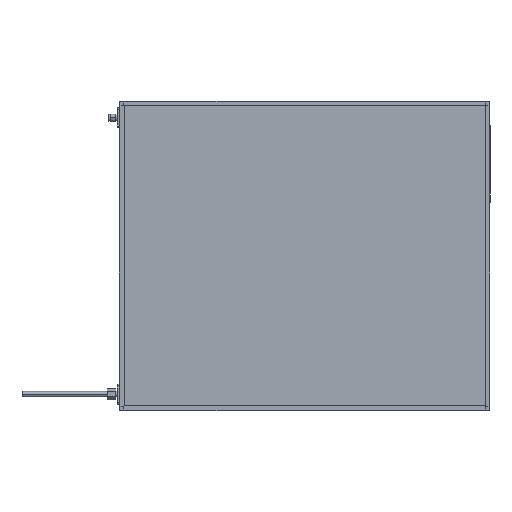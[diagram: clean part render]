
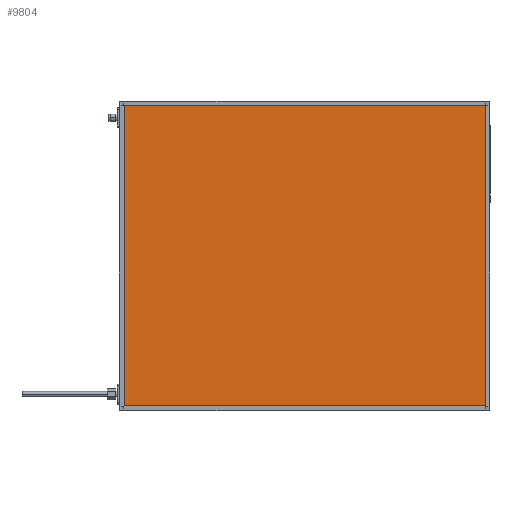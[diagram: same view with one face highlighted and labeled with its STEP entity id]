
A CAD part, top view. The second image highlights one B-rep face of the part: STEP entity #9804.
In plain terms, the highlighted planar face has unit normal (0, 0, 1).
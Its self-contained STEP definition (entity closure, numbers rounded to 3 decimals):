
#133 = ORIENTED_EDGE ( 'NONE', *, *, #15248, .T. ) ;
#233 = AXIS2_PLACEMENT_3D ( 'NONE', #4776, #10338, #7598 ) ;
#376 = EDGE_LOOP ( 'NONE', ( #11170, #10814, #133, #17721 ) ) ;
#3552 = CARTESIAN_POINT ( 'NONE',  ( 4., 4., 41.85 ) ) ;
#3933 = LINE ( 'NONE', #5910, #4360 ) ;
#4054 = VERTEX_POINT ( 'NONE', #11503 ) ;
#4360 = VECTOR ( 'NONE', #15589, 1000. ) ;
#4776 = CARTESIAN_POINT ( 'NONE',  ( 0., 0., 41.85 ) ) ;
#4992 = DIRECTION ( 'NONE',  ( 1., 0., 0. ) ) ;
#5522 = VERTEX_POINT ( 'NONE', #3552 ) ;
#5910 = CARTESIAN_POINT ( 'NONE',  ( 4., 0., 41.85 ) ) ;
#7175 = VERTEX_POINT ( 'NONE', #17333 ) ;
#7525 = VERTEX_POINT ( 'NONE', #12257 ) ;
#7598 = DIRECTION ( 'NONE',  ( -1., 0., 0. ) ) ;
#7776 = PLANE ( 'NONE',  #233 ) ;
#8231 = CARTESIAN_POINT ( 'NONE',  ( 0., 496., 41.85 ) ) ;
#8567 = EDGE_CURVE ( 'NONE', #5522, #7175, #17496, .T. ) ;
#8879 = FACE_OUTER_BOUND ( 'NONE', #376, .T. ) ;
#9102 = CARTESIAN_POINT ( 'NONE',  ( 0., 4., 41.85 ) ) ;
#9804 = ADVANCED_FACE ( 'NONE', ( #8879 ), #7776, .F. ) ;
#10338 = DIRECTION ( 'NONE',  ( 0., 0., -1. ) ) ;
#10626 = CARTESIAN_POINT ( 'NONE',  ( 596., 0., 41.85 ) ) ;
#10766 = VECTOR ( 'NONE', #13803, 1000. ) ;
#10814 = ORIENTED_EDGE ( 'NONE', *, *, #12740, .T. ) ;
#11170 = ORIENTED_EDGE ( 'NONE', *, *, #12383, .T. ) ;
#11503 = CARTESIAN_POINT ( 'NONE',  ( 596., 496., 41.85 ) ) ;
#12257 = CARTESIAN_POINT ( 'NONE',  ( 4., 496., 41.85 ) ) ;
#12383 = EDGE_CURVE ( 'NONE', #7175, #4054, #13741, .T. ) ;
#12740 = EDGE_CURVE ( 'NONE', #4054, #7525, #16176, .T. ) ;
#13394 = VECTOR ( 'NONE', #16198, 1000. ) ;
#13741 = LINE ( 'NONE', #10626, #13394 ) ;
#13803 = DIRECTION ( 'NONE',  ( -1., 0., 0. ) ) ;
#15248 = EDGE_CURVE ( 'NONE', #7525, #5522, #3933, .T. ) ;
#15589 = DIRECTION ( 'NONE',  ( 0., -1., 0. ) ) ;
#16176 = LINE ( 'NONE', #8231, #10766 ) ;
#16198 = DIRECTION ( 'NONE',  ( 0., 1., 0. ) ) ;
#17333 = CARTESIAN_POINT ( 'NONE',  ( 596., 4., 41.85 ) ) ;
#17496 = LINE ( 'NONE', #9102, #17982 ) ;
#17721 = ORIENTED_EDGE ( 'NONE', *, *, #8567, .T. ) ;
#17982 = VECTOR ( 'NONE', #4992, 1000. ) ;
